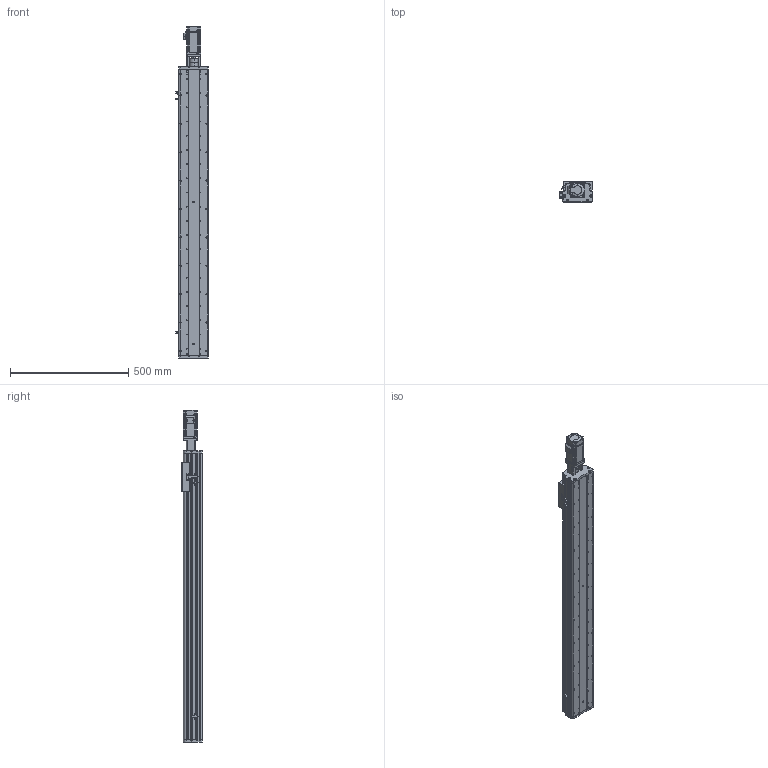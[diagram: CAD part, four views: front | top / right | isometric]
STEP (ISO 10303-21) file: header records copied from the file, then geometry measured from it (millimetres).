
FILE_DESCRIPTION (( 'STEP AP214' ), '1' );
FILE_NAME ('KSD125S-S1000-MT-CM.STEP', '2017-08-07T06:51:31', ( '微软用户' ), ( '微软中国' ), 'SwSTEP 2.0', 'SolidWorks 2014', '' );
FILE_SCHEMA (( 'AUTOMOTIVE_DESIGN' ));
Length unit declared in the file: millimetre
Products named in the file (13): KSD125-賑雄釱1; MHMD042G1CA_2_03; 100遵鎮湛假蚾啣1 ; 拸萇儂釱滅袉菜; 覜茼え68遵圉猾敕; U倰嫖萇假蚾璃; U倰嫖萇EEㄜSX672; ヶ傷啣-125遵耀郪; CS-34X32-10X14; 125-帣傷啣1; KSD125S-S1000-MT-CM; KSD125S-1000俴最佪裝滅鳥裔; KSD125S-1000俴最佪裝菁啣
Assembly tree (16 placements, depth 2):
  KSD125S-S1000-MT-CM
    125-帣傷啣1
    CS-34X32-10X14
    ヶ傷啣-125遵耀郪
    U倰嫖萇EEㄜSX672  x3
    U倰嫖萇假蚾璃  x3
    覜茼え68遵圉猾敕
    拸萇儂釱滅袉菜
    100遵鎮湛假蚾啣1 
    MHMD042G1CA_2_03
    KSD125-賑雄釱1
    KSD125S-1000俴最佪裝菁啣
    KSD125S-1000俴最佪裝滅鳥裔
Bounding box: 138.7 x 86 x 1403.5 mm (x, y, z)
Volume: 3902474.9 mm3; surface area: 1280959 mm2
Topology: 15 solids, 18 shells, 1604 faces, 4634 edges, 3051 vertices
Faces by surface type: cylinder 842, plane 649, cone 91, bspline 22
Entity records: 56947 total; most frequent: CARTESIAN_POINT 11910, DIRECTION 8192, ORIENTED_EDGE 7776, EDGE_CURVE 3966, AXIS2_PLACEMENT_3D 3047, VERTEX_POINT 2643, VECTOR 2098, LINE 2098
